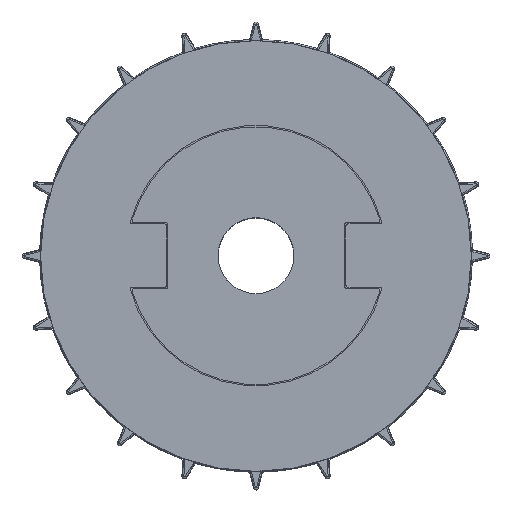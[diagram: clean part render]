
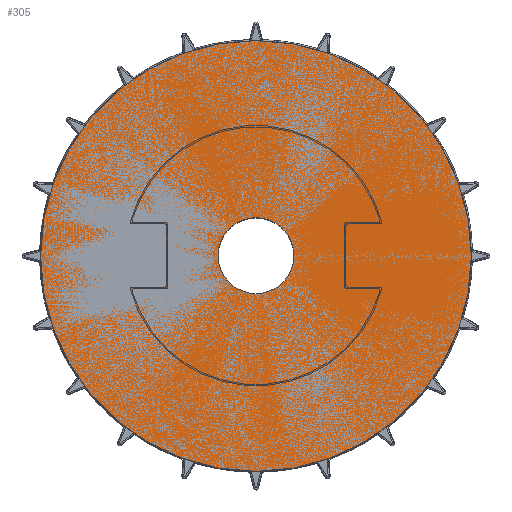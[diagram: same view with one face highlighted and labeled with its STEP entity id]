
A CAD part, top view. The second image highlights one B-rep face of the part: STEP entity #305.
In plain terms, the highlighted planar face has unit normal (0, 0, 1).
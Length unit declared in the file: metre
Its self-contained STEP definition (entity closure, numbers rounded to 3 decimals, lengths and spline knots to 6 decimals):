
#305=ADVANCED_FACE('28:16332',(#1547,#1548),#1549,.T.);
#1547=FACE_OUTER_BOUND('',#3753,.T.);
#1548=FACE_BOUND('',#3754,.T.);
#1549=PLANE('',#3755);
#3753=EDGE_LOOP('',(#6821,#6822));
#3754=EDGE_LOOP('',(#6823,#6824));
#3755=AXIS2_PLACEMENT_3D('',#6825,#6826,#6827);
#6821=ORIENTED_EDGE('',*,*,#15334,.T.);
#6822=ORIENTED_EDGE('',*,*,#15382,.T.);
#6823=ORIENTED_EDGE('',*,*,#15380,.F.);
#6824=ORIENTED_EDGE('',*,*,#15373,.F.);
#6825=CARTESIAN_POINT('',(-0.003978,0.00198,0.003823));
#6826=DIRECTION('',(0.,0.0,1.0));
#6827=DIRECTION('',(1.0,0.0,0.));
#15334=EDGE_CURVE('28:16338',#18742,#18739,#18743,.F.);
#15373=EDGE_CURVE('205:9608',#18799,#18802,#18803,.T.);
#15380=EDGE_CURVE('205:9608',#18802,#18799,#18812,.T.);
#15382=EDGE_CURVE('28:16338',#18739,#18742,#18814,.F.);
#18739=VERTEX_POINT('',#27225);
#18742=VERTEX_POINT('',#27229);
#18743=CIRCLE('',#27230,0.013038);
#18799=VERTEX_POINT('',#27490);
#18802=VERTEX_POINT('',#27494);
#18803=CIRCLE('',#27495,0.0023);
#18812=CIRCLE('',#27530,0.0023);
#18814=CIRCLE('',#27544,0.013038);
#27225=CARTESIAN_POINT('',(0.009061,0.00198,0.003823));
#27229=CARTESIAN_POINT('',(-0.017016,0.00198,0.003823));
#27230=AXIS2_PLACEMENT_3D('',#41446,#41447,#41448);
#27490=CARTESIAN_POINT('',(-0.006274,0.002001,0.003823));
#27494=CARTESIAN_POINT('',(-0.001674,0.002001,0.003823));
#27495=AXIS2_PLACEMENT_3D('',#41519,#41520,#41521);
#27530=AXIS2_PLACEMENT_3D('',#41530,#41531,#41532);
#27544=AXIS2_PLACEMENT_3D('',#41533,#41534,#41535);
#41446=CARTESIAN_POINT('',(-0.003978,0.00198,0.003823));
#41447=DIRECTION('',(0.,0.0,-1.0));
#41448=DIRECTION('',(1.0,0.0,0.));
#41519=CARTESIAN_POINT('',(-0.003974,0.002001,0.003823));
#41520=DIRECTION('',(0.,0.0,1.0));
#41521=DIRECTION('',(-1.0,0.0,0.));
#41530=CARTESIAN_POINT('',(-0.003974,0.002001,0.003823));
#41531=DIRECTION('',(0.,0.0,1.0));
#41532=DIRECTION('',(-1.0,0.0,0.));
#41533=CARTESIAN_POINT('',(-0.003978,0.00198,0.003823));
#41534=DIRECTION('',(0.,0.0,-1.0));
#41535=DIRECTION('',(1.0,0.0,0.));
